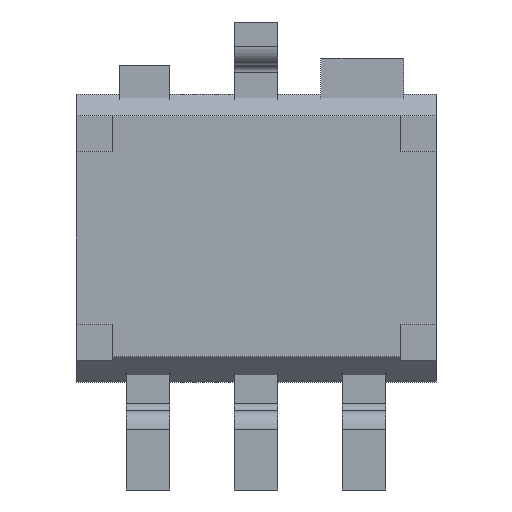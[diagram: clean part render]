
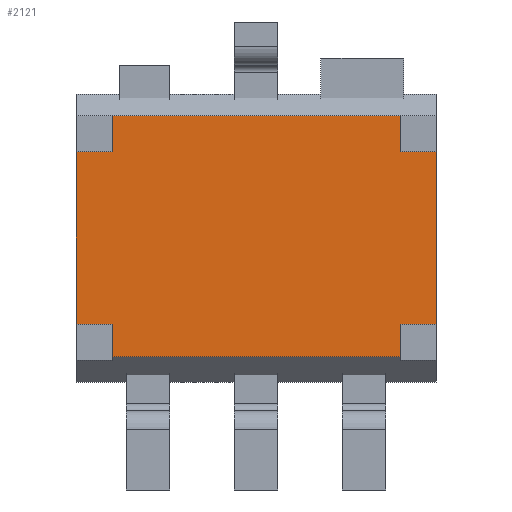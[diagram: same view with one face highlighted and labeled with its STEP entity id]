
A CAD part, front view. The second image highlights one B-rep face of the part: STEP entity #2121.
In plain terms, the highlighted planar face has unit normal (0, -1, 0).
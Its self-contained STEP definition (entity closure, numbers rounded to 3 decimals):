
#86=DIRECTION('',(0.,0.,-1.));
#87=VECTOR('',#86,2.4);
#88=CARTESIAN_POINT('',(2.5,0.2,1.2));
#89=LINE('',#88,#87);
#190=DIRECTION('',(0.,0.,1.));
#191=VECTOR('',#190,2.4);
#192=CARTESIAN_POINT('',(-2.5,0.2,-1.2));
#193=LINE('',#192,#191);
#710=DIRECTION('',(-1.,0.,0.));
#711=VECTOR('',#710,4.);
#712=CARTESIAN_POINT('',(2.,0.2,-1.65));
#713=LINE('',#712,#711);
#714=DIRECTION('',(0.,0.,-1.));
#715=VECTOR('',#714,0.45);
#716=CARTESIAN_POINT('',(-2.,0.2,-1.2));
#717=LINE('',#716,#715);
#718=DIRECTION('',(1.,0.,0.));
#719=VECTOR('',#718,0.5);
#720=CARTESIAN_POINT('',(-2.5,0.2,-1.2));
#721=LINE('',#720,#719);
#722=DIRECTION('',(-1.,0.,0.));
#723=VECTOR('',#722,0.5);
#724=CARTESIAN_POINT('',(-2.,0.2,1.2));
#725=LINE('',#724,#723);
#726=DIRECTION('',(0.,0.,-1.));
#727=VECTOR('',#726,0.5);
#728=CARTESIAN_POINT('',(-2.,0.2,1.7));
#729=LINE('',#728,#727);
#730=DIRECTION('',(1.,0.,0.));
#731=VECTOR('',#730,4.);
#732=CARTESIAN_POINT('',(-2.,0.2,1.7));
#733=LINE('',#732,#731);
#734=DIRECTION('',(0.,0.,1.));
#735=VECTOR('',#734,0.5);
#736=CARTESIAN_POINT('',(2.,0.2,1.2));
#737=LINE('',#736,#735);
#738=DIRECTION('',(-1.,0.,0.));
#739=VECTOR('',#738,0.5);
#740=CARTESIAN_POINT('',(2.5,0.2,1.2));
#741=LINE('',#740,#739);
#742=DIRECTION('',(1.,0.,0.));
#743=VECTOR('',#742,0.5);
#744=CARTESIAN_POINT('',(2.,0.2,-1.2));
#745=LINE('',#744,#743);
#746=DIRECTION('',(0.,0.,1.));
#747=VECTOR('',#746,0.45);
#748=CARTESIAN_POINT('',(2.,0.2,-1.65));
#749=LINE('',#748,#747);
#890=CARTESIAN_POINT('',(-2.5,0.2,-1.2));
#891=CARTESIAN_POINT('',(-2.5,0.2,1.2));
#892=VERTEX_POINT('',#890);
#893=VERTEX_POINT('',#891);
#894=CARTESIAN_POINT('',(2.5,0.2,1.2));
#895=CARTESIAN_POINT('',(2.5,0.2,-1.2));
#896=VERTEX_POINT('',#894);
#897=VERTEX_POINT('',#895);
#898=CARTESIAN_POINT('',(2.,0.2,1.2));
#899=VERTEX_POINT('',#898);
#900=CARTESIAN_POINT('',(2.,0.2,-1.2));
#901=VERTEX_POINT('',#900);
#902=CARTESIAN_POINT('',(-2.,0.2,1.2));
#903=VERTEX_POINT('',#902);
#904=CARTESIAN_POINT('',(-2.,0.2,-1.2));
#905=VERTEX_POINT('',#904);
#910=CARTESIAN_POINT('',(2.,0.2,-1.65));
#911=CARTESIAN_POINT('',(-2.,0.2,-1.65));
#912=VERTEX_POINT('',#910);
#913=VERTEX_POINT('',#911);
#922=CARTESIAN_POINT('',(2.,0.2,1.7));
#923=VERTEX_POINT('',#922);
#924=CARTESIAN_POINT('',(-2.,0.2,1.7));
#925=VERTEX_POINT('',#924);
#2095=CARTESIAN_POINT('',(0.,0.2,0.));
#2096=DIRECTION('',(0.,-1.,0.));
#2097=DIRECTION('',(1.,0.,0.));
#2098=AXIS2_PLACEMENT_3D('',#2095,#2096,#2097);
#2099=PLANE('',#2098);
#2100=ORIENTED_EDGE('',*,*,#2056,.T.);
#2101=ORIENTED_EDGE('',*,*,#2085,.F.);
#2103=ORIENTED_EDGE('',*,*,#2102,.F.);
#2104=ORIENTED_EDGE('',*,*,#1331,.T.);
#2106=ORIENTED_EDGE('',*,*,#2105,.F.);
#2108=ORIENTED_EDGE('',*,*,#2107,.F.);
#2109=ORIENTED_EDGE('',*,*,#1211,.T.);
#2111=ORIENTED_EDGE('',*,*,#2110,.F.);
#2113=ORIENTED_EDGE('',*,*,#2112,.F.);
#2114=ORIENTED_EDGE('',*,*,#1242,.T.);
#2116=ORIENTED_EDGE('',*,*,#2115,.F.);
#2118=ORIENTED_EDGE('',*,*,#2117,.F.);
#2119=EDGE_LOOP('',(#2100,#2101,#2103,#2104,#2106,#2108,#2109,#2111,#2113,#2114,
#2116,#2118));
#2120=FACE_OUTER_BOUND('',#2119,.F.);
#1211=EDGE_CURVE('',#925,#923,#733,.T.);
#1242=EDGE_CURVE('',#896,#897,#89,.T.);
#1331=EDGE_CURVE('',#892,#893,#193,.T.);
#2056=EDGE_CURVE('',#912,#913,#713,.T.);
#2085=EDGE_CURVE('',#905,#913,#717,.T.);
#2102=EDGE_CURVE('',#892,#905,#721,.T.);
#2105=EDGE_CURVE('',#903,#893,#725,.T.);
#2107=EDGE_CURVE('',#925,#903,#729,.T.);
#2110=EDGE_CURVE('',#899,#923,#737,.T.);
#2112=EDGE_CURVE('',#896,#899,#741,.T.);
#2115=EDGE_CURVE('',#901,#897,#745,.T.);
#2117=EDGE_CURVE('',#912,#901,#749,.T.);
#2121=ADVANCED_FACE('',(#2120),#2099,.T.);
